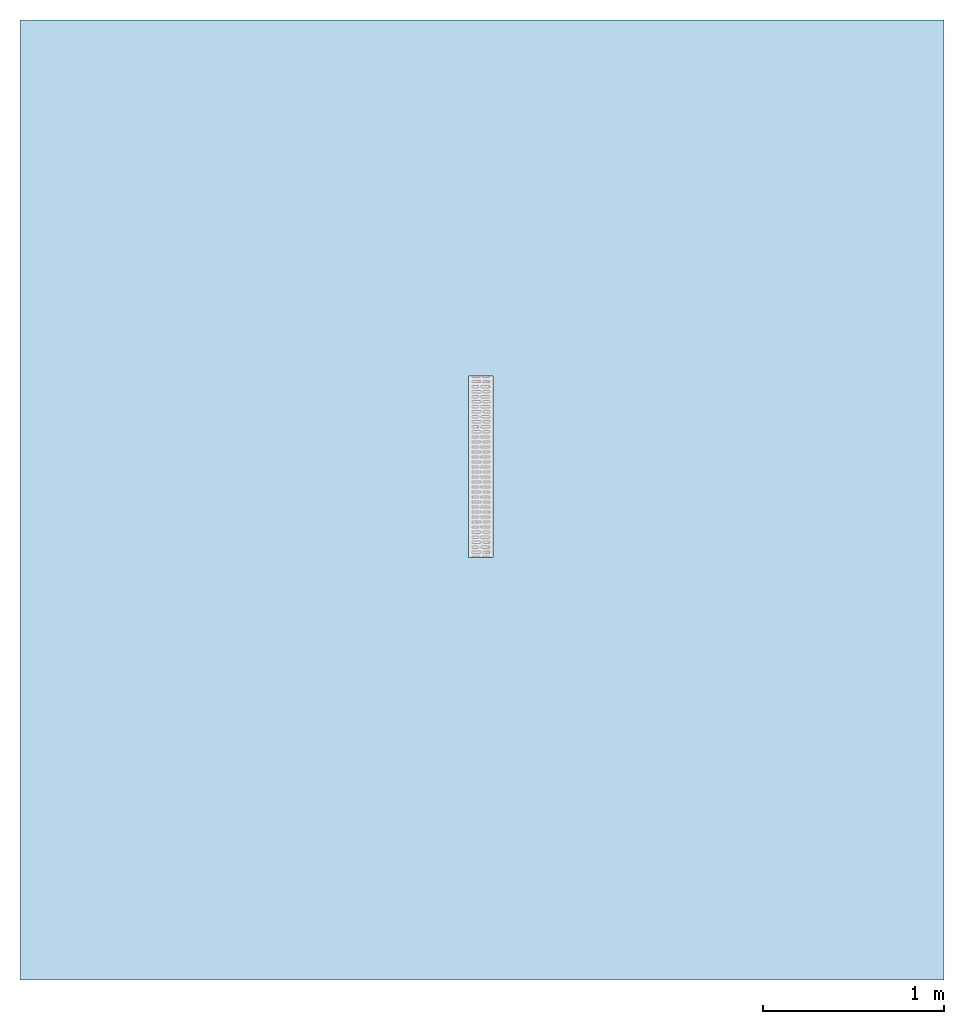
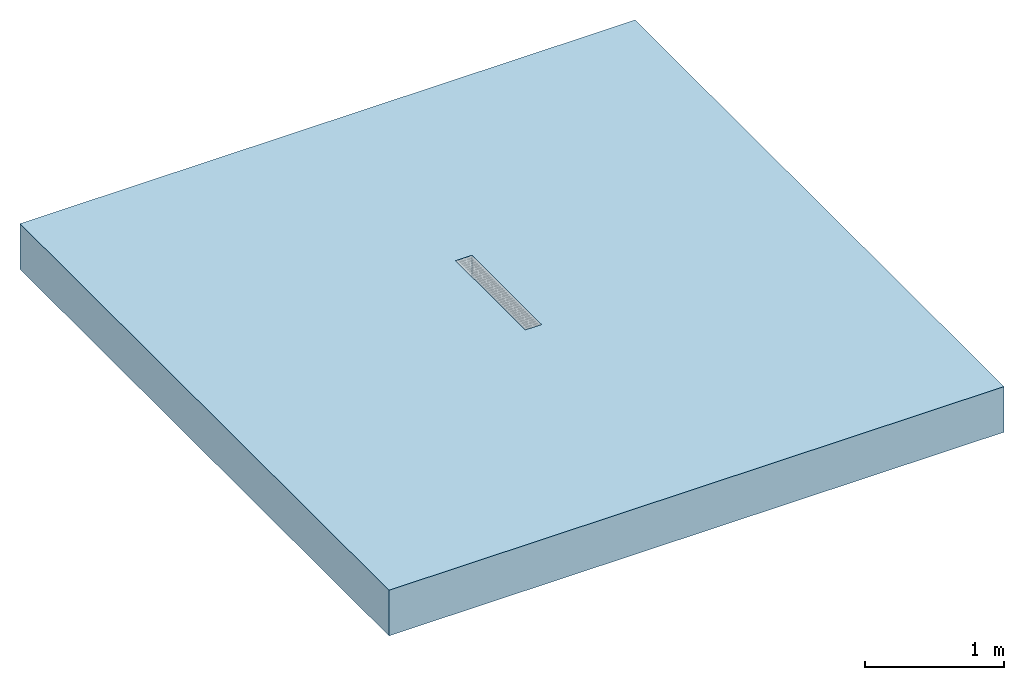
# One storey, incomplete: 1 slab, 1 opening.
"""IFC2X3 building model written with IfcOpenShell, lengths in millimetres."""

from ifc_helpers import new_model, entity, si_unit, converted_unit, direction, frame, frame_2d, origin, origin_2d_with_axis, place, context, subcontext, project, spatial, rectangle, extrude, material, layer, layer_set, layer_usage, element, save


model = new_model("IFC2X3")

# Units and contexts
model_context = context("Model", 3, precision=1e-06, world=origin(), true_north=direction((2.0, 6.12303176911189e-17, 1.0)))
context_of_model = context(None, 3, precision=1e-06, world=origin(), true_north=direction((2.0, 6.12303176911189e-17, 1.0)))
body_context = subcontext(model_context, "Body", "Model", "MODEL_VIEW")
ifc_project = project(units=[si_unit("LENGTHUNIT", "METRE", prefix="MILLI"), si_unit("AREAUNIT", "SQUARE_METRE", prefix="MILLI"), si_unit("VOLUMEUNIT", "CUBIC_METRE", prefix="MILLI"), converted_unit("PLANEANGLEUNIT", "DEGREE", entity("IfcRatioMeasure", 0.0174532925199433), si_unit("PLANEANGLEUNIT", "RADIAN"), dimensions=[0, 0, 0, 0, 0, 0, 0]), si_unit("TIMEUNIT", "SECOND")], contexts=[model_context, context_of_model])

# Site, building, storey
site_placement = place(None, origin())
site = spatial("IfcSite", under=ifc_project, at=site_placement, Name="Default", CompositionType="ELEMENT")
building_placement = place(site_placement, origin())
building = spatial("IfcBuilding", under=site, at=building_placement, CompositionType="ELEMENT")
storey_placement = place(building_placement, origin())
storey = spatial("IfcBuildingStorey", under=building, at=storey_placement, Name="Level 1", CompositionType="ELEMENT", Elevation=0.0)

# Slab, opening
ifc_material = material(Name="Plant")
ifc_layer = layer(ifc_material, 400.0)
ifc_layer_set = layer_set([ifc_layer], Name="Floor:Generic Floor - 400mm")
ifc_layer_usage = layer_usage(ifc_layer_set, "AXIS3", "POSITIVE", 0.0)
slab_placement = place(storey_placement, frame((-4647.86261836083, 721.458014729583, -400.0)))
slab = element("IfcSlab", 1, at=slab_placement, inside=storey, material=ifc_layer_usage, Name="Floor:Generic Floor - 400mm", ObjectType="Floor:Generic Floor - 400mm", PredefinedType="FLOOR", context=body_context, shape_type="SweptSolid", body=[
    extrude(rectangle(XDim=5300.0, YDim=5100.0, at=frame_2d((0.0, 0.0), x_axis=(0.0, -1.0))), frame((2550.0, 2650.0, 400.0), z_axis=(0.0, 0.0, -1.0), x_axis=(-1.0, 0.0, 0.0)), (0.0, 0.0, 1.0), 400.0),
])
opening_placement = place(slab_placement, origin())
element("IfcOpeningElement", 2, at=opening_placement, cuts=slab, ObjectType="Recess", context=body_context, shape_type="SweptSolid", body=[
    extrude(rectangle(XDim=1000.0, YDim=135.0, at=origin_2d_with_axis()), frame((2544.68201524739, 2833.67683880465, 220.0), z_axis=(0.0, 0.0, 1.0), x_axis=(0.0, 1.0, 0.0)), (0.0, 0.0, 1.0), 179.999999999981),
])

save(model, "model.ifc")
